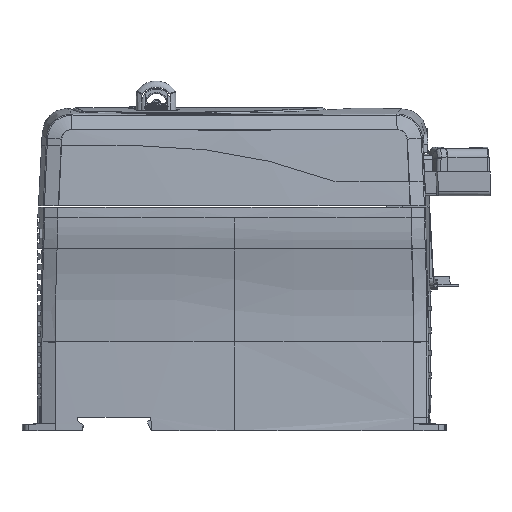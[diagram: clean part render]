
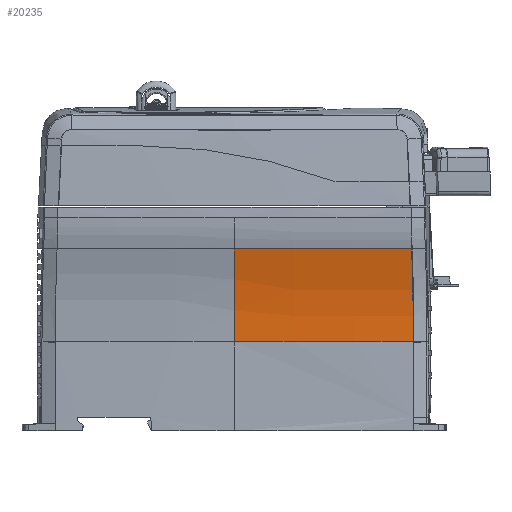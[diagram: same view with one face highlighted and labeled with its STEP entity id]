
A CAD part, left-side view. The second image highlights one B-rep face of the part: STEP entity #20235.
In plain terms, the highlighted toroidal (fillet/blend) face has major radius 2280.75 mm and minor radius 171.75 mm.
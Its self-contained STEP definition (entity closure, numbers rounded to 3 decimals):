
#12891=CARTESIAN_POINT('',(-41.815,-110.709,
87.932));
#12892=CARTESIAN_POINT('',(-37.829,-111.272,
73.32));
#12893=CARTESIAN_POINT('',(-35.797,-111.49,
58.155));
#12894=CARTESIAN_POINT('',(-35.797,-111.49,
43.));
#12896=CARTESIAN_POINT('',(2071.43,-25.02,
43.));
#12897=DIRECTION('',(0.,0.,-1.));
#12898=DIRECTION('',(-0.999,-0.041,0.));
#12899=AXIS2_PLACEMENT_3D('',#12896,#12897,#12898);
#12901=CARTESIAN_POINT('',(-209.32,-25.09,
43.));
#12902=DIRECTION('',(0.,-1.,0.));
#12903=DIRECTION('',(1.,0.,0.));
#12904=AXIS2_PLACEMENT_3D('',#12901,#12902,#12903);
#12906=CARTESIAN_POINT('',(2071.43,-25.02,
87.931));
#12907=DIRECTION('',(0.,0.,1.));
#12908=DIRECTION('',(-1.,0.,0.));
#12909=AXIS2_PLACEMENT_3D('',#12906,#12907,#12908);
#16118=CARTESIAN_POINT('',(-35.797,-111.49,
43.));
#16120=VERTEX_POINT('',#16118);
#16144=CARTESIAN_POINT('',(-43.551,-25.085,
87.932));
#16146=VERTEX_POINT('',#16144);
#16151=CARTESIAN_POINT('',(-41.815,-110.709,
87.932));
#16152=VERTEX_POINT('',#16151);
#16884=CARTESIAN_POINT('',(-37.57,-25.085,
43.));
#16885=VERTEX_POINT('',#16884);
#20222=CARTESIAN_POINT('',(2071.43,-25.02,
43.));
#20223=DIRECTION('',(0.,0.,-1.));
#20224=DIRECTION('',(-1.,0.001,0.));
#20225=AXIS2_PLACEMENT_3D('',#20222,#20223,#20224);
#20226=TOROIDAL_SURFACE('',#20225,2280.75,171.75);
#20227=ORIENTED_EDGE('',*,*,#20212,.T.);
#20228=ORIENTED_EDGE('',*,*,#17811,.T.);
#20230=ORIENTED_EDGE('',*,*,#20229,.T.);
#20232=ORIENTED_EDGE('',*,*,#20231,.T.);
#20233=EDGE_LOOP('',(#20227,#20228,#20230,#20232));
#20234=FACE_OUTER_BOUND('',#20233,.F.);
#20235=ADVANCED_FACE('',(#20234),#20226,.F.);
#12895=B_SPLINE_CURVE_WITH_KNOTS('',3,(#12891,#12892,#12893,#12894),
.UNSPECIFIED.,.F.,.F.,(4,4),(0.,1.),.UNSPECIFIED.);
#12900=CIRCLE('',#12899,2109.);
#12905=CIRCLE('',#12904,171.75);
#12910=CIRCLE('',#12909,2114.981);
#17811=EDGE_CURVE('',#16120,#16885,#12900,.T.);
#20212=EDGE_CURVE('',#16152,#16120,#12895,.T.);
#20229=EDGE_CURVE('',#16885,#16146,#12905,.T.);
#20231=EDGE_CURVE('',#16146,#16152,#12910,.T.);
